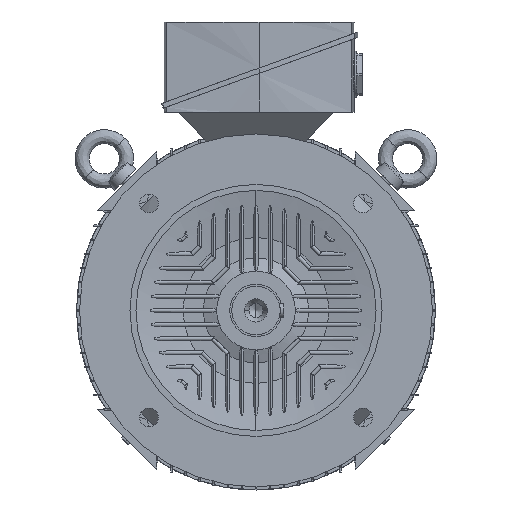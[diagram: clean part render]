
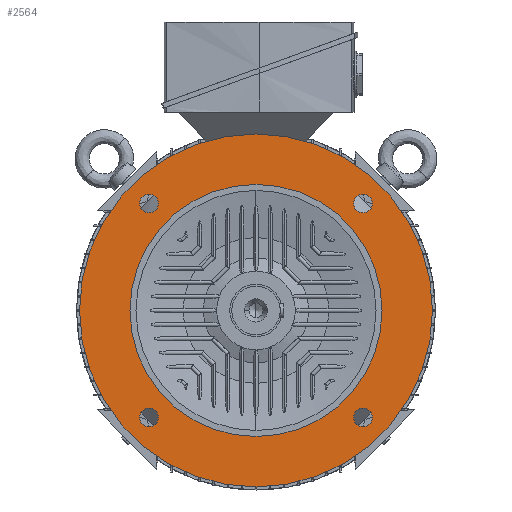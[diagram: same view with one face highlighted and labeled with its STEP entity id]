
A CAD part, left-side view. The second image highlights one B-rep face of the part: STEP entity #2564.
In plain terms, the highlighted planar face has unit normal (-1, 0, 0).
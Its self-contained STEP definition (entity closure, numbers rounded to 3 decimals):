
#231 = CIRCLE ( 'NONE', #44635, 9.25 ) ;
#355 = FACE_BOUND ( 'NONE', #10521, .T. ) ;
#531 = FACE_BOUND ( 'NONE', #9801, .T. ) ;
#686 = FACE_OUTER_BOUND ( 'NONE', #16285, .T. ) ;
#801 = FACE_BOUND ( 'NONE', #22257, .T. ) ;
#964 = DIRECTION ( 'NONE',  ( 0., 0., -1. ) ) ;
#995 = CARTESIAN_POINT ( 'NONE',  ( -78., -106.066, -96.816 ) ) ;
#1038 = DIRECTION ( 'NONE',  ( 0., 0., -1. ) ) ;
#1088 = DIRECTION ( 'NONE',  ( 1., 0., 0. ) ) ;
#1253 = CARTESIAN_POINT ( 'NONE',  ( -78., 106.066, -106.066 ) ) ;
#1437 = ORIENTED_EDGE ( 'NONE', *, *, #10826, .T. ) ;
#1497 = VERTEX_POINT ( 'NONE', #24577 ) ;
#1519 = CARTESIAN_POINT ( 'NONE',  ( -78., -106.066, 96.816 ) ) ;
#1627 = FACE_BOUND ( 'NONE', #11127, .T. ) ;
#2356 = ORIENTED_EDGE ( 'NONE', *, *, #45904, .T. ) ;
#2564 = ADVANCED_FACE ( 'NONE', ( #1627, #686, #801, #355, #31802, #531 ), #35403, .T. ) ;
#4266 = CARTESIAN_POINT ( 'NONE',  ( -78., -106.066, -115.316 ) ) ;
#4806 = CARTESIAN_POINT ( 'NONE',  ( -78., 150., 0. ) ) ;
#5037 = EDGE_CURVE ( 'NONE', #65474, #65419, #231, .T. ) ;
#5787 = CARTESIAN_POINT ( 'NONE',  ( -78., -106.066, 115.316 ) ) ;
#7837 = EDGE_CURVE ( 'NONE', #50712, #36373, #47994, .T. ) ;
#9380 = VERTEX_POINT ( 'NONE', #28226 ) ;
#9801 = EDGE_LOOP ( 'NONE', ( #12644, #49734 ) ) ;
#10521 = EDGE_LOOP ( 'NONE', ( #45871, #45072 ) ) ;
#10826 = EDGE_CURVE ( 'NONE', #65419, #65474, #36009, .T. ) ;
#10926 = CARTESIAN_POINT ( 'NONE',  ( -78., 106.066, -115.316 ) ) ;
#11127 = EDGE_LOOP ( 'NONE', ( #2356, #21611 ) ) ;
#11748 = EDGE_CURVE ( 'NONE', #36373, #50712, #24176, .T. ) ;
#12644 = ORIENTED_EDGE ( 'NONE', *, *, #11748, .T. ) ;
#16285 = EDGE_LOOP ( 'NONE', ( #61331, #51239 ) ) ;
#16564 = ORIENTED_EDGE ( 'NONE', *, *, #32291, .T. ) ;
#17144 = DIRECTION ( 'NONE',  ( 0., 0., 1. ) ) ;
#17225 = DIRECTION ( 'NONE',  ( 1., 0., 0. ) ) ;
#17318 = CARTESIAN_POINT ( 'NONE',  ( -78., 0., 0. ) ) ;
#18347 = EDGE_CURVE ( 'NONE', #1497, #48996, #40975, .T. ) ;
#20439 = EDGE_CURVE ( 'NONE', #29002, #54541, #64796, .T. ) ;
#21251 = AXIS2_PLACEMENT_3D ( 'NONE', #17318, #17225, #17144 ) ;
#21611 = ORIENTED_EDGE ( 'NONE', *, *, #67677, .T. ) ;
#21987 = DIRECTION ( 'NONE',  ( 0., 0., -1. ) ) ;
#22032 = VERTEX_POINT ( 'NONE', #48811 ) ;
#22066 = DIRECTION ( 'NONE',  ( 1., 0., 0. ) ) ;
#22072 = CARTESIAN_POINT ( 'NONE',  ( -78., 106.066, 106.066 ) ) ;
#22257 = EDGE_LOOP ( 'NONE', ( #1437, #37883 ) ) ;
#22336 = DIRECTION ( 'NONE',  ( -1., 0., 0. ) ) ;
#22517 = CARTESIAN_POINT ( 'NONE',  ( -78., 0., 0. ) ) ;
#23109 = EDGE_CURVE ( 'NONE', #48996, #1497, #61087, .T. ) ;
#23371 = CARTESIAN_POINT ( 'NONE',  ( -78., 106.066, 115.316 ) ) ;
#24176 = CIRCLE ( 'NONE', #36777, 9.25 ) ;
#24577 = CARTESIAN_POINT ( 'NONE',  ( -78., 0., -175. ) ) ;
#24834 = EDGE_LOOP ( 'NONE', ( #64443, #16564 ) ) ;
#26313 = AXIS2_PLACEMENT_3D ( 'NONE', #65853, #35180, #964 ) ;
#28033 = DIRECTION ( 'NONE',  ( 0., 0., 1. ) ) ;
#28211 = CIRCLE ( 'NONE', #61601, 125. ) ;
#28226 = CARTESIAN_POINT ( 'NONE',  ( -78., 106.066, -96.816 ) ) ;
#29002 = VERTEX_POINT ( 'NONE', #66609 ) ;
#29217 = AXIS2_PLACEMENT_3D ( 'NONE', #49744, #49677, #49607 ) ;
#29807 = AXIS2_PLACEMENT_3D ( 'NONE', #48202, #48286, #48503 ) ;
#30075 = CARTESIAN_POINT ( 'NONE',  ( -78., 0., 175. ) ) ;
#31016 = AXIS2_PLACEMENT_3D ( 'NONE', #1253, #1088, #1038 ) ;
#31802 = FACE_BOUND ( 'NONE', #24834, .T. ) ;
#32291 = EDGE_CURVE ( 'NONE', #9380, #66110, #52239, .T. ) ;
#33343 = CARTESIAN_POINT ( 'NONE',  ( -78., -106.066, -106.066 ) ) ;
#33570 = DIRECTION ( 'NONE',  ( 1., 0., 0. ) ) ;
#33821 = DIRECTION ( 'NONE',  ( 0., 0., -1. ) ) ;
#34474 = DIRECTION ( 'NONE',  ( 0., 0., -1. ) ) ;
#34522 = DIRECTION ( 'NONE',  ( 1., 0., 0. ) ) ;
#34711 = CARTESIAN_POINT ( 'NONE',  ( -78., -106.066, 106.066 ) ) ;
#35180 = DIRECTION ( 'NONE',  ( 1., 0., 0. ) ) ;
#35403 = PLANE ( 'NONE',  #47081 ) ;
#36009 = CIRCLE ( 'NONE', #37689, 9.25 ) ;
#36075 = AXIS2_PLACEMENT_3D ( 'NONE', #48002, #47869, #47770 ) ;
#36373 = VERTEX_POINT ( 'NONE', #4266 ) ;
#36627 = CARTESIAN_POINT ( 'NONE',  ( -78., 0., -125. ) ) ;
#36777 = AXIS2_PLACEMENT_3D ( 'NONE', #33343, #33570, #33821 ) ;
#37689 = AXIS2_PLACEMENT_3D ( 'NONE', #34711, #34522, #34474 ) ;
#37883 = ORIENTED_EDGE ( 'NONE', *, *, #5037, .T. ) ;
#40975 = CIRCLE ( 'NONE', #29217, 175. ) ;
#41104 = AXIS2_PLACEMENT_3D ( 'NONE', #52134, #51866, #51653 ) ;
#41913 = AXIS2_PLACEMENT_3D ( 'NONE', #22072, #22066, #21987 ) ;
#44635 = AXIS2_PLACEMENT_3D ( 'NONE', #48676, #48624, #48537 ) ;
#45072 = ORIENTED_EDGE ( 'NONE', *, *, #51980, .T. ) ;
#45871 = ORIENTED_EDGE ( 'NONE', *, *, #20439, .T. ) ;
#45904 = EDGE_CURVE ( 'NONE', #22032, #50971, #61492, .T. ) ;
#47081 = AXIS2_PLACEMENT_3D ( 'NONE', #4806, #22336, #51387 ) ;
#47770 = DIRECTION ( 'NONE',  ( 0., 0., 1. ) ) ;
#47869 = DIRECTION ( 'NONE',  ( 1., 0., 0. ) ) ;
#47994 = CIRCLE ( 'NONE', #41104, 9.25 ) ;
#48002 = CARTESIAN_POINT ( 'NONE',  ( -78., 0., 0. ) ) ;
#48202 = CARTESIAN_POINT ( 'NONE',  ( -78., 106.066, -106.066 ) ) ;
#48286 = DIRECTION ( 'NONE',  ( 1., 0., 0. ) ) ;
#48503 = DIRECTION ( 'NONE',  ( 0., 0., -1. ) ) ;
#48537 = DIRECTION ( 'NONE',  ( 0., 0., -1. ) ) ;
#48624 = DIRECTION ( 'NONE',  ( 1., 0., 0. ) ) ;
#48676 = CARTESIAN_POINT ( 'NONE',  ( -78., -106.066, 106.066 ) ) ;
#48811 = CARTESIAN_POINT ( 'NONE',  ( -78., 0., 125. ) ) ;
#48996 = VERTEX_POINT ( 'NONE', #30075 ) ;
#49607 = DIRECTION ( 'NONE',  ( 0., 0., 1. ) ) ;
#49677 = DIRECTION ( 'NONE',  ( 1., 0., 0. ) ) ;
#49734 = ORIENTED_EDGE ( 'NONE', *, *, #7837, .T. ) ;
#49744 = CARTESIAN_POINT ( 'NONE',  ( -78., 0., 0. ) ) ;
#50712 = VERTEX_POINT ( 'NONE', #995 ) ;
#50971 = VERTEX_POINT ( 'NONE', #36627 ) ;
#51239 = ORIENTED_EDGE ( 'NONE', *, *, #18347, .F. ) ;
#51387 = DIRECTION ( 'NONE',  ( 0., 0., 1. ) ) ;
#51653 = DIRECTION ( 'NONE',  ( 0., 0., -1. ) ) ;
#51866 = DIRECTION ( 'NONE',  ( 1., 0., 0. ) ) ;
#51980 = EDGE_CURVE ( 'NONE', #54541, #29002, #62804, .T. ) ;
#52134 = CARTESIAN_POINT ( 'NONE',  ( -78., -106.066, -106.066 ) ) ;
#52239 = CIRCLE ( 'NONE', #29807, 9.25 ) ;
#54541 = VERTEX_POINT ( 'NONE', #23371 ) ;
#58931 = DIRECTION ( 'NONE',  ( 1., 0., 0. ) ) ;
#59065 = EDGE_CURVE ( 'NONE', #66110, #9380, #61166, .T. ) ;
#61087 = CIRCLE ( 'NONE', #21251, 175. ) ;
#61166 = CIRCLE ( 'NONE', #31016, 9.25 ) ;
#61331 = ORIENTED_EDGE ( 'NONE', *, *, #23109, .F. ) ;
#61492 = CIRCLE ( 'NONE', #36075, 125. ) ;
#61601 = AXIS2_PLACEMENT_3D ( 'NONE', #22517, #58931, #28033 ) ;
#62804 = CIRCLE ( 'NONE', #41913, 9.25 ) ;
#64443 = ORIENTED_EDGE ( 'NONE', *, *, #59065, .T. ) ;
#64796 = CIRCLE ( 'NONE', #26313, 9.25 ) ;
#65419 = VERTEX_POINT ( 'NONE', #1519 ) ;
#65474 = VERTEX_POINT ( 'NONE', #5787 ) ;
#65853 = CARTESIAN_POINT ( 'NONE',  ( -78., 106.066, 106.066 ) ) ;
#66110 = VERTEX_POINT ( 'NONE', #10926 ) ;
#66609 = CARTESIAN_POINT ( 'NONE',  ( -78., 106.066, 96.816 ) ) ;
#67677 = EDGE_CURVE ( 'NONE', #50971, #22032, #28211, .T. ) ;
